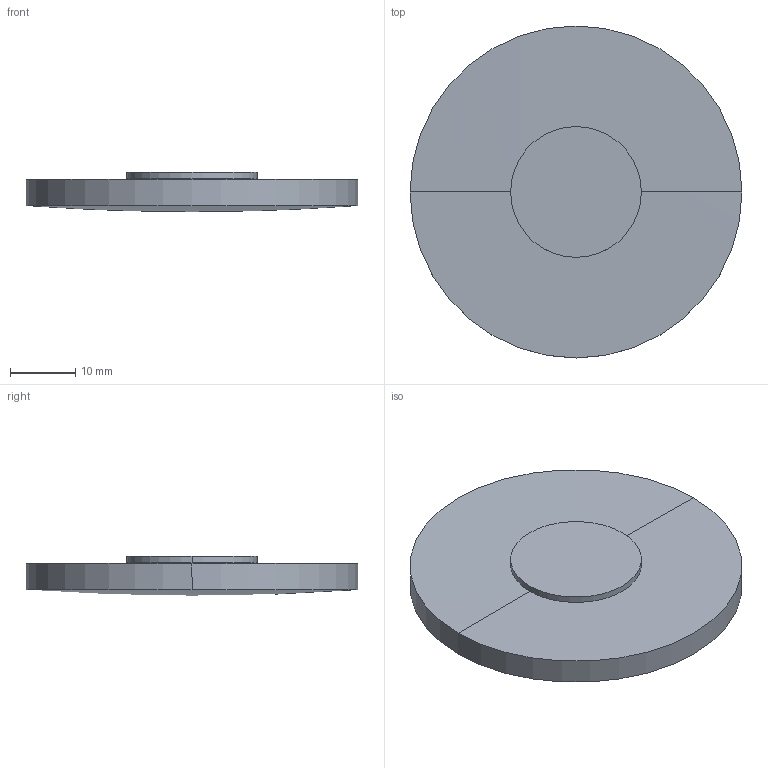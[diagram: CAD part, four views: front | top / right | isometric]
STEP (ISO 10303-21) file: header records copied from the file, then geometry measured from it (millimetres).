
FILE_DESCRIPTION(('STEP AP214'),'1');
FILE_NAME('LLV-51610.STEP','2020-03-09T17:42:28',(' '),(' '),'Spatial InterOp 3D',' ',' ');
FILE_SCHEMA(('AUTOMOTIVE_DESIGN { 1 0 10303 214 1 1 1 1 }'));
Length unit declared in the file: millimetre
Products named in the file (1): 1
Bounding box: 50.8 x 50.8 x 6 mm (x, y, z)
Volume: 9368.1 mm3; surface area: 5375.3 mm2
Topology: 2 solids, 2 shells, 10 faces, 20 edges, 10 vertices
Faces by surface type: sphere 4, cylinder 4, plane 2
Entity records: 255 total; most frequent: DIRECTION 52, CARTESIAN_POINT 38, ORIENTED_EDGE 32, AXIS2_PLACEMENT_3D 24, EDGE_CURVE 16, CIRCLE 12, ADVANCED_FACE 10, FACE_OUTER_BOUND 10
